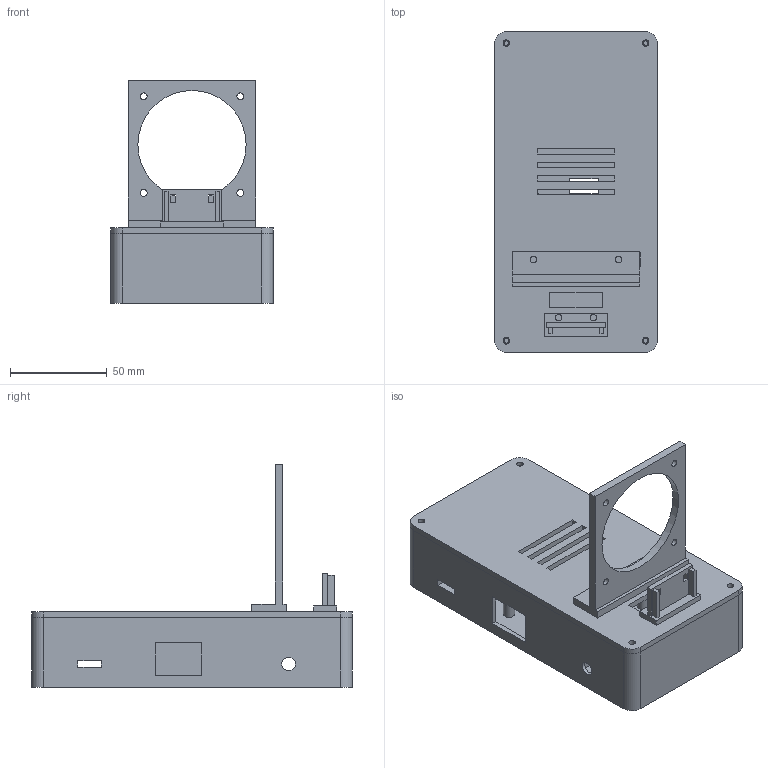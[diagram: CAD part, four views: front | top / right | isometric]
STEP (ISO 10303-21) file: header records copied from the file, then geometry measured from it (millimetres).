
FILE_DESCRIPTION(('Open CASCADE Model'),'2;1');
FILE_NAME('Open CASCADE Shape Model','2026-11-18T23:37:44',('Author'),( 'Open CASCADE'),'Open CASCADE STEP processor 7.9','Open CASCADE 7.9' ,'Unknown');
FILE_SCHEMA(('AUTOMOTIVE_DESIGN { 1 0 10303 214 1 1 1 1 }'));
Length unit declared in the file: millimetre
Products named in the file (7): ff119eb4-e365-11f1-967e-299ac58aac5c; 01_chassis_0; 02_cover_0; 03_fan_mount_0; 04_camera_holder_0; 05_motor_cap_print_2_0; 05_motor_cap_print_2_1
Assembly tree (6 placements, depth 2):
  ff119eb4-e365-11f1-967e-299ac58aac5c
    01_chassis_0
    02_cover_0
    03_fan_mount_0
    04_camera_holder_0
    05_motor_cap_print_2_0
    05_motor_cap_print_2_1
Bounding box: 84 x 166 x 115 mm (x, y, z)
Volume: 152101.9 mm3; surface area: 107935.9 mm2
Topology: 6 solids, 6 shells, 223 faces, 573 edges, 382 vertices
Faces by surface type: plane 172, cylinder 51
Full cylindrical faces by diameter (mm): 2.1 x4, 2.5 x8, 3.3 x4, 3.4 x12, 3.6 x4, 5.8 x4, 7 x2, 56 x1
Entity records: 14302 total; most frequent: CARTESIAN_POINT 3097, DIRECTION 1865, LINE 1169, VECTOR 1169, ORIENTED_EDGE 1146, PCURVE 1146, DEFINITIONAL_REPRESENTATION 1146, EDGE_CURVE 573
